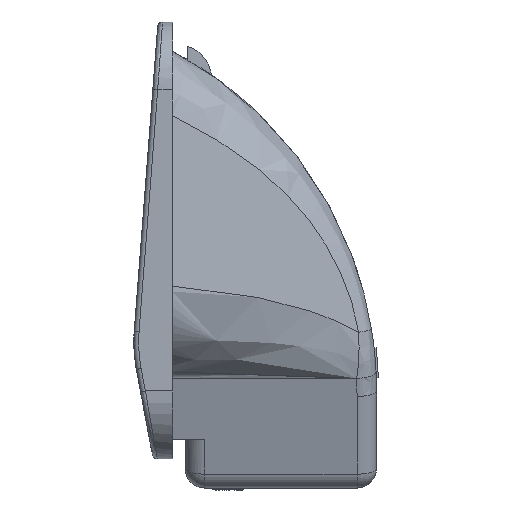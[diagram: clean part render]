
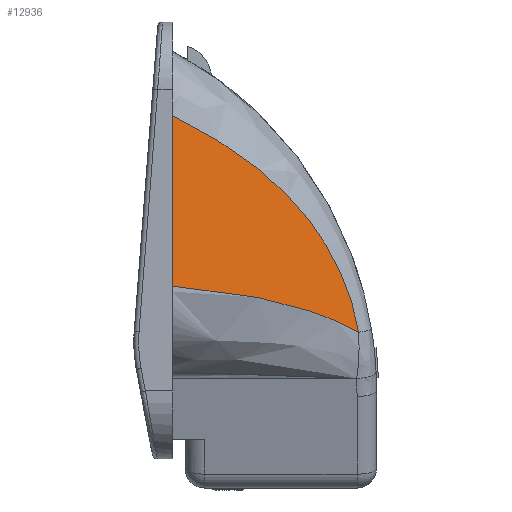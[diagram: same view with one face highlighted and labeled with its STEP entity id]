
A CAD part, left-side view. The second image highlights one B-rep face of the part: STEP entity #12936.
In plain terms, the highlighted planar face has unit normal (-0.945, -0.326, 0).
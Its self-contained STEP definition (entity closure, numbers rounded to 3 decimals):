
#79 = ORIENTED_EDGE ( 'NONE', *, *, #14577, .T. ) ;
#935 = CARTESIAN_POINT ( 'NONE',  ( 10.867, -19.166, -9.466 ) ) ;
#1403 = CARTESIAN_POINT ( 'NONE',  ( 10.542, -18.225, -5.678 ) ) ;
#1462 = CARTESIAN_POINT ( 'NONE',  ( 8.697, -12.881, 3.507 ) ) ;
#1498 = CARTESIAN_POINT ( 'NONE',  ( 3.797, 1.311, 78.5 ) ) ;
#1541 = CARTESIAN_POINT ( 'NONE',  ( 6.473, -6.438, 9.149 ) ) ;
#1611 = CARTESIAN_POINT ( 'NONE',  ( 5.358, -3.21, 11.155 ) ) ;
#1667 = CARTESIAN_POINT ( 'NONE',  ( 10.867, -19.166, -9.466 ) ) ;
#2356 = ORIENTED_EDGE ( 'NONE', *, *, #17604, .T. ) ;
#2516 = VERTEX_POINT ( 'NONE', #1667 ) ;
#3015 = CARTESIAN_POINT ( 'NONE',  ( 10.46, -17.986, -4.976 ) ) ;
#3095 = CARTESIAN_POINT ( 'NONE',  ( 8.494, -12.293, 4.156 ) ) ;
#3131 = DIRECTION ( 'NONE',  ( -0.326, 0.945, 0. ) ) ;
#3164 = CARTESIAN_POINT ( 'NONE',  ( 6.443, -6.352, 9.207 ) ) ;
#3225 = CARTESIAN_POINT ( 'NONE',  ( 5.023, -2.238, 11.706 ) ) ;
#4130 = CARTESIAN_POINT ( 'NONE',  ( 5.389, -3.3, -4.994 ) ) ;
#4253 = VERTEX_POINT ( 'NONE', #6919 ) ;
#4392 = ORIENTED_EDGE ( 'NONE', *, *, #10410, .T. ) ;
#4595 = CARTESIAN_POINT ( 'NONE',  ( 10.867, -19.166, -9.466 ) ) ;
#4637 = VECTOR ( 'NONE', #12631, 1000. ) ;
#4667 = CARTESIAN_POINT ( 'NONE',  ( 10.172, -17.155, -2.997 ) ) ;
#4730 = CARTESIAN_POINT ( 'NONE',  ( 8.445, -12.15, 4.309 ) ) ;
#4803 = CARTESIAN_POINT ( 'NONE',  ( 6.434, -6.326, 9.226 ) ) ;
#4877 = CARTESIAN_POINT ( 'NONE',  ( 4.25, 0., 12.857 ) ) ;
#5740 = CARTESIAN_POINT ( 'NONE',  ( 7.083, -8.206, -5.733 ) ) ;
#6070 = VERTEX_POINT ( 'NONE', #9705 ) ;
#6273 = CARTESIAN_POINT ( 'NONE',  ( 10.039, -16.768, -2.213 ) ) ;
#6355 = CARTESIAN_POINT ( 'NONE',  ( 8.429, -12.105, 4.357 ) ) ;
#6428 = CARTESIAN_POINT ( 'NONE',  ( 6.004, -5.08, 10.046 ) ) ;
#6919 = CARTESIAN_POINT ( 'NONE',  ( 4.25, 0., -4.707 ) ) ;
#7354 = CARTESIAN_POINT ( 'NONE',  ( 8.755, -13.05, -6.887 ) ) ;
#7828 = CARTESIAN_POINT ( 'NONE',  ( 10.761, -18.861, -7.847 ) ) ;
#7909 = CARTESIAN_POINT ( 'NONE',  ( 10.006, -16.672, -2.027 ) ) ;
#7974 = CARTESIAN_POINT ( 'NONE',  ( 7.675, -9.919, 6.514 ) ) ;
#8042 = CARTESIAN_POINT ( 'NONE',  ( 5.519, -3.676, 10.887 ) ) ;
#8981 = CARTESIAN_POINT ( 'NONE',  ( 9.834, -16.173, -7.995 ) ) ;
#9451 = CARTESIAN_POINT ( 'NONE',  ( 10.596, -18.382, -6.158 ) ) ;
#9514 = CARTESIAN_POINT ( 'NONE',  ( 9.788, -16.042, -0.822 ) ) ;
#9593 = CARTESIAN_POINT ( 'NONE',  ( 6.757, -7.262, 8.574 ) ) ;
#9668 = CARTESIAN_POINT ( 'NONE',  ( 5.394, -3.314, 11.095 ) ) ;
#9705 = CARTESIAN_POINT ( 'NONE',  ( 4.25, 0., 12.857 ) ) ;
#10410 = EDGE_CURVE ( 'NONE', #2516, #6070, #10591, .T. ) ;
#10525 = CARTESIAN_POINT ( 'NONE',  ( 4.25, 0., -4.707 ) ) ;
#10591 = B_SPLINE_CURVE_WITH_KNOTS ( 'NONE', 3,
 ( #4595, #14248, #7828, #19109, #9451, #20728, #11067, #1403, #12708, #3015, #14316, #4667, #15957, #6273, #17578, #7909, #19186, #9514, #20799, #11148, #1462, #12768, #3095, #14394, #4730, #16031, #6355, #17647, #7974, #19259, #9593, #20869, #11217, #1541, #12839, #3164, #14470, #4803, #16099, #6428, #17724, #8042, #19323, #9668, #20940, #11283, #1611, #12917, #3225, #14539, #4877 ),
 .UNSPECIFIED., .F., .F.,
 ( 4, 1, 1, 1, 1, 2, 2, 1, 1, 1, 1, 2, 2, 1, 1, 1, 1, 1, 1, 2, 2, 1, 1, 1, 1, 1, 1, 1, 2, 2, 1, 1, 1, 1, 1, 1, 2, 2, 4 ),
 ( 0., 0.062, 0.094, 0.109, 0.117, 0.121, 0.125, 0.187, 0.219, 0.234, 0.242, 0.246, 0.25, 0.375, 0.437, 0.469, 0.484, 0.492, 0.496, 0.498, 0.5, 0.625, 0.687, 0.719, 0.734, 0.742, 0.746, 0.748, 0.749, 0.75, 0.812, 0.844, 0.859, 0.867, 0.871, 0.873, 0.874, 0.875, 1. ),
 .UNSPECIFIED. ) ;
#10597 = CARTESIAN_POINT ( 'NONE',  ( 10.616, -18.44, -9.036 ) ) ;
#11067 = CARTESIAN_POINT ( 'NONE',  ( 10.551, -18.251, -5.758 ) ) ;
#11148 = CARTESIAN_POINT ( 'NONE',  ( 8.957, -13.634, 2.627 ) ) ;
#11185 = PLANE ( 'NONE',  #13808 ) ;
#11217 = CARTESIAN_POINT ( 'NONE',  ( 6.514, -6.557, 9.068 ) ) ;
#11283 = CARTESIAN_POINT ( 'NONE',  ( 5.364, -3.227, 11.145 ) ) ;
#12170 = CARTESIAN_POINT ( 'NONE',  ( 4.82, -1.651, -4.825 ) ) ;
#12631 = DIRECTION ( 'NONE',  ( 0., 0., -1. ) ) ;
#12708 = CARTESIAN_POINT ( 'NONE',  ( 10.537, -18.211, -5.636 ) ) ;
#12768 = CARTESIAN_POINT ( 'NONE',  ( 8.563, -12.491, 3.941 ) ) ;
#12800 = DIRECTION ( 'NONE',  ( 0.945, 0.326, 0. ) ) ;
#12839 = CARTESIAN_POINT ( 'NONE',  ( 6.452, -6.378, 9.19 ) ) ;
#12917 = CARTESIAN_POINT ( 'NONE',  ( 5.355, -3.2, 11.16 ) ) ;
#12936 = ADVANCED_FACE ( 'NONE', ( #16636 ), #11185, .F. ) ;
#12949 = B_SPLINE_CURVE_WITH_KNOTS ( 'NONE', 3,
 ( #10525, #12170, #4130, #15413, #5740, #17047, #7354, #18652, #8981, #20259, #10597, #935 ),
 .UNSPECIFIED., .F., .F.,
 ( 4, 2, 2, 2, 2, 4 ),
 ( 0., 0.005, 0.011, 0.016, 0.018, 0.021 ),
 .UNSPECIFIED. ) ;
#13808 = AXIS2_PLACEMENT_3D ( 'NONE', #1498, #12800, #3131 ) ;
#14175 = CARTESIAN_POINT ( 'NONE',  ( 4.25, 0., 78.5 ) ) ;
#14248 = CARTESIAN_POINT ( 'NONE',  ( 10.831, -19.061, -8.817 ) ) ;
#14316 = CARTESIAN_POINT ( 'NONE',  ( 10.337, -17.632, -4.054 ) ) ;
#14394 = CARTESIAN_POINT ( 'NONE',  ( 8.459, -12.193, 4.263 ) ) ;
#14470 = CARTESIAN_POINT ( 'NONE',  ( 6.437, -6.335, 9.219 ) ) ;
#14539 = CARTESIAN_POINT ( 'NONE',  ( 4.655, -1.174, 12.271 ) ) ;
#14577 = EDGE_CURVE ( 'NONE', #4253, #2516, #12949, .T. ) ;
#15413 = CARTESIAN_POINT ( 'NONE',  ( 6.521, -6.577, -5.448 ) ) ;
#15957 = CARTESIAN_POINT ( 'NONE',  ( 10.084, -16.9, -2.474 ) ) ;
#16031 = CARTESIAN_POINT ( 'NONE',  ( 8.435, -12.121, 4.34 ) ) ;
#16099 = CARTESIAN_POINT ( 'NONE',  ( 6.264, -5.834, 9.559 ) ) ;
#16636 = FACE_OUTER_BOUND ( 'NONE', #20165, .T. ) ;
#17047 = CARTESIAN_POINT ( 'NONE',  ( 8.2, -11.44, -6.453 ) ) ;
#17519 = LINE ( 'NONE', #14175, #4637 ) ;
#17578 = CARTESIAN_POINT ( 'NONE',  ( 10.019, -16.711, -2.101 ) ) ;
#17604 = EDGE_CURVE ( 'NONE', #6070, #4253, #17519, .T. ) ;
#17647 = CARTESIAN_POINT ( 'NONE',  ( 8.138, -11.263, 5.248 ) ) ;
#17724 = CARTESIAN_POINT ( 'NONE',  ( 5.684, -4.152, 10.608 ) ) ;
#18652 = CARTESIAN_POINT ( 'NONE',  ( 9.567, -15.4, -7.698 ) ) ;
#19109 = CARTESIAN_POINT ( 'NONE',  ( 10.655, -18.554, -6.72 ) ) ;
#19186 = CARTESIAN_POINT ( 'NONE',  ( 9.999, -16.652, -1.988 ) ) ;
#19259 = CARTESIAN_POINT ( 'NONE',  ( 7.073, -8.177, 7.902 ) ) ;
#19323 = CARTESIAN_POINT ( 'NONE',  ( 5.436, -3.435, 11.026 ) ) ;
#20165 = EDGE_LOOP ( 'NONE', ( #79, #4392, #2356 ) ) ;
#20259 = CARTESIAN_POINT ( 'NONE',  ( 10.358, -17.693, -8.665 ) ) ;
#20728 = CARTESIAN_POINT ( 'NONE',  ( 10.565, -18.291, -5.878 ) ) ;
#20799 = CARTESIAN_POINT ( 'NONE',  ( 9.439, -15.031, 0.817 ) ) ;
#20869 = CARTESIAN_POINT ( 'NONE',  ( 6.595, -6.794, 8.904 ) ) ;
#20940 = CARTESIAN_POINT ( 'NONE',  ( 5.373, -3.253, 11.13 ) ) ;
